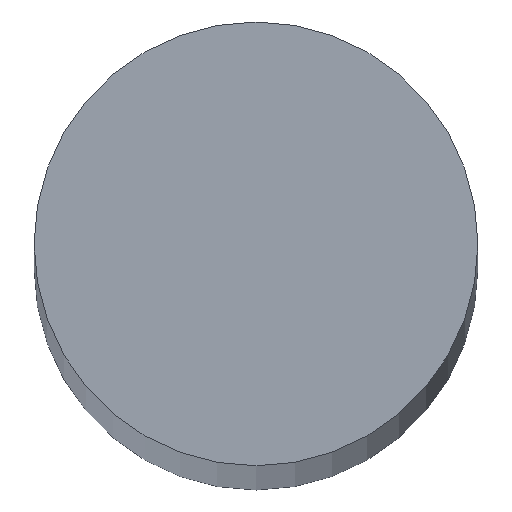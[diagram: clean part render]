
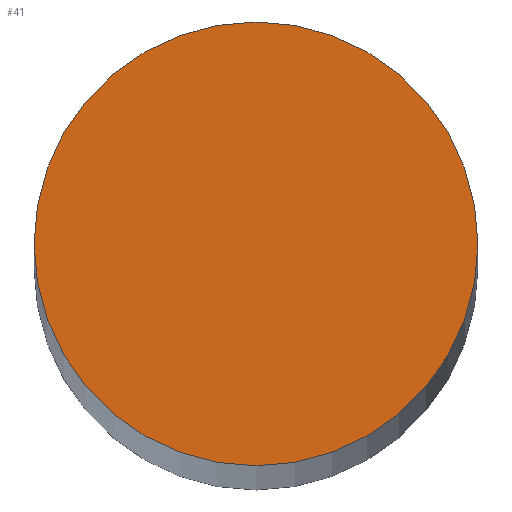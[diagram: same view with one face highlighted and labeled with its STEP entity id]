
A CAD part, top view. The second image highlights one B-rep face of the part: STEP entity #41.
In plain terms, the highlighted planar face has unit normal (0, 0, 1).
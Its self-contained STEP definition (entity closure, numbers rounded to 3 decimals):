
#16=PLANE('',#66);
#19=FACE_OUTER_BOUND('',#22,.T.);
#22=EDGE_LOOP('',(#37));
#25=CIRCLE('',#63,8.);
#27=VERTEX_POINT('',#82);
#29=EDGE_CURVE('',#27,#27,#25,.T.);
#37=ORIENTED_EDGE('',*,*,#29,.T.);
#41=ADVANCED_FACE('',(#19),#16,.T.);
#63=AXIS2_PLACEMENT_3D('',#83,#71,#72);
#66=AXIS2_PLACEMENT_3D('',#88,#78,#79);
#71=DIRECTION('center_axis',(0.,0.,1.));
#72=DIRECTION('ref_axis',(-1.,0.,0.));
#78=DIRECTION('center_axis',(0.,0.,1.));
#79=DIRECTION('ref_axis',(1.,0.,0.));
#82=CARTESIAN_POINT('',(8.,0.,500.));
#83=CARTESIAN_POINT('Origin',(0.,0.,500.));
#88=CARTESIAN_POINT('Origin',(0.,0.,
500.));
